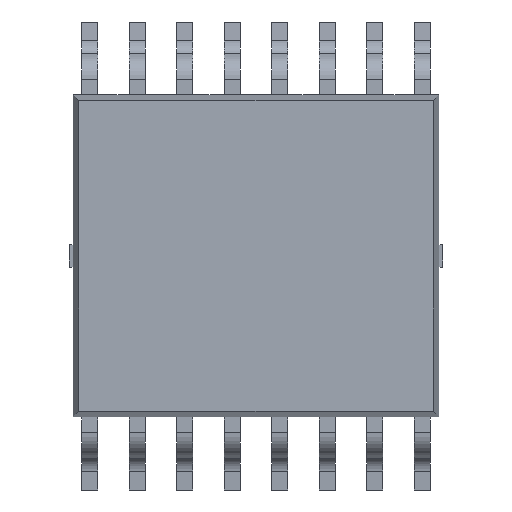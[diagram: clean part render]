
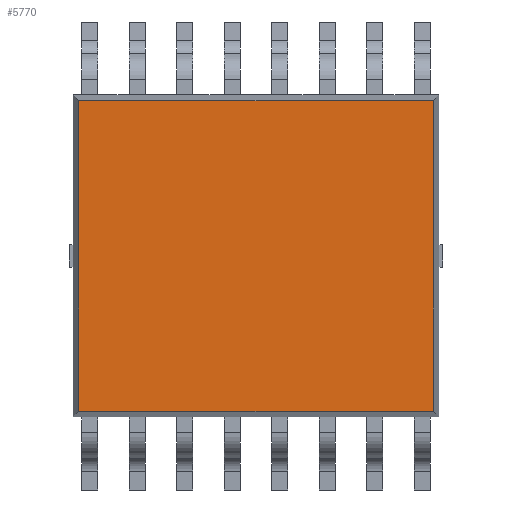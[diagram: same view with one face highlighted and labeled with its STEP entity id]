
A CAD part, top view. The second image highlights one B-rep face of the part: STEP entity #5770.
In plain terms, the highlighted planar face has unit normal (0, 0, 1).
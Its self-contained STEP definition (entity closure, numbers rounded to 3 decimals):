
#73 = ORIENTED_EDGE ( 'NONE', *, *, #2208, .T. ) ;
#574 = EDGE_LOOP ( 'NONE', ( #5613, #6395, #4723, #73 ) ) ;
#598 = LINE ( 'NONE', #5322, #7664 ) ;
#1038 = LINE ( 'NONE', #3413, #3711 ) ;
#1239 = VERTEX_POINT ( 'NONE', #2890 ) ;
#1280 = PLANE ( 'NONE',  #2909 ) ;
#1778 = EDGE_CURVE ( 'NONE', #1239, #6357, #6976, .T. ) ;
#2208 = EDGE_CURVE ( 'NONE', #6357, #3266, #3279, .T. ) ;
#2513 = DIRECTION ( 'NONE',  ( 0., 0., 1. ) ) ;
#2890 = CARTESIAN_POINT ( 'NONE',  ( 2.573, 7.969, 9.648 ) ) ;
#2909 = AXIS2_PLACEMENT_3D ( 'NONE', #8229, #2513, #7048 ) ;
#3266 = VERTEX_POINT ( 'NONE', #3729 ) ;
#3279 = LINE ( 'NONE', #5049, #6468 ) ;
#3405 = DIRECTION ( 'NONE',  ( 0., 1., 0. ) ) ;
#3413 = CARTESIAN_POINT ( 'NONE',  ( 2.497, 7.969, 9.648 ) ) ;
#3586 = CARTESIAN_POINT ( 'NONE',  ( 7.42, 7.969, 9.648 ) ) ;
#3689 = CARTESIAN_POINT ( 'NONE',  ( 2.573, 3.646, 9.648 ) ) ;
#3711 = VECTOR ( 'NONE', #7143, 1000. ) ;
#3729 = CARTESIAN_POINT ( 'NONE',  ( 7.42, 3.723, 9.648 ) ) ;
#4723 = ORIENTED_EDGE ( 'NONE', *, *, #1778, .T. ) ;
#5038 = DIRECTION ( 'NONE',  ( 0., -1., 0. ) ) ;
#5049 = CARTESIAN_POINT ( 'NONE',  ( 7.497, 3.723, 9.648 ) ) ;
#5322 = CARTESIAN_POINT ( 'NONE',  ( 7.42, 8.046, 9.648 ) ) ;
#5600 = DIRECTION ( 'NONE',  ( 1., 0., 0. ) ) ;
#5613 = ORIENTED_EDGE ( 'NONE', *, *, #6930, .T. ) ;
#5679 = VECTOR ( 'NONE', #5038, 1000. ) ;
#5770 = ADVANCED_FACE ( 'NONE', ( #7588 ), #1280, .T. ) ;
#5970 = CARTESIAN_POINT ( 'NONE',  ( 2.573, 3.723, 9.648 ) ) ;
#6357 = VERTEX_POINT ( 'NONE', #5970 ) ;
#6395 = ORIENTED_EDGE ( 'NONE', *, *, #8209, .T. ) ;
#6468 = VECTOR ( 'NONE', #5600, 1000. ) ;
#6627 = VERTEX_POINT ( 'NONE', #3586 ) ;
#6930 = EDGE_CURVE ( 'NONE', #3266, #6627, #598, .T. ) ;
#6976 = LINE ( 'NONE', #3689, #5679 ) ;
#7048 = DIRECTION ( 'NONE',  ( 1., 0., 0. ) ) ;
#7143 = DIRECTION ( 'NONE',  ( -1., 0., 0. ) ) ;
#7588 = FACE_OUTER_BOUND ( 'NONE', #574, .T. ) ;
#7664 = VECTOR ( 'NONE', #3405, 1000. ) ;
#8209 = EDGE_CURVE ( 'NONE', #6627, #1239, #1038, .T. ) ;
#8229 = CARTESIAN_POINT ( 'NONE',  ( -1.525, 0.841, 9.648 ) ) ;
